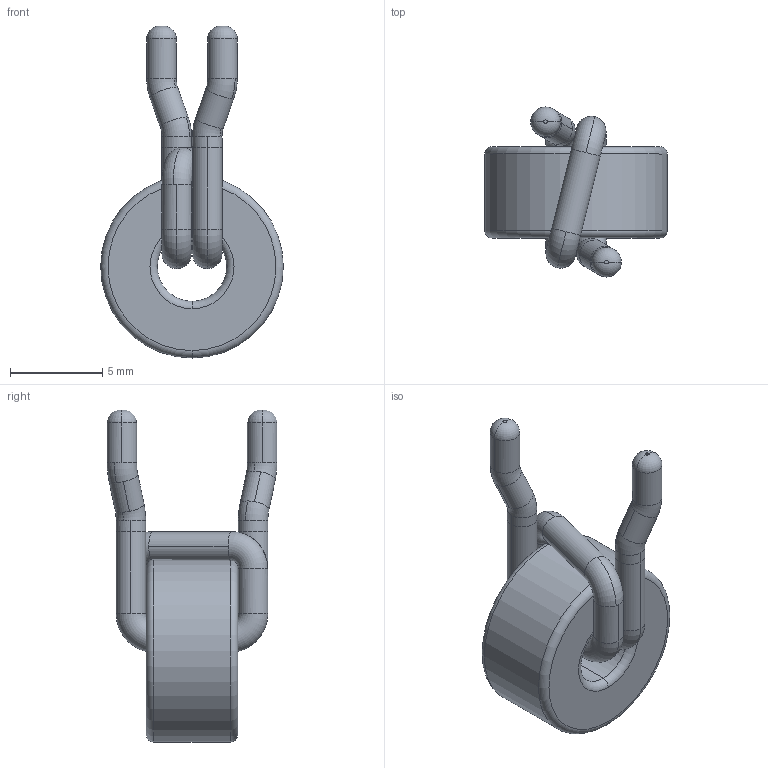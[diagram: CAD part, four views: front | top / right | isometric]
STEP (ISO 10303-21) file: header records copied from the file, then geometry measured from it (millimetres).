
FILE_DESCRIPTION (( 'STEP AP203' ), '1' );
FILE_NAME ('C-B5298-00.STEP', '2021-01-09T07:58:15', ( 'Windows User' ), ( '' ), 'SwSTEP 2.0', 'SolidWorks 2015', '' );
FILE_SCHEMA (( 'CONFIG_CONTROL_DESIGN' ));
Length unit declared in the file: inch
Products named in the file (3): C-B5298-00 - CORE; C-B5298-00 - COIL; C-B5298-00
Assembly tree (2 placements, depth 2):
  C-B5298-00
    C-B5298-00 - CORE
    C-B5298-00 - COIL
Bounding box: 9.89 x 9.2 x 17.97 mm (x, y, z)
Volume: 425.5 mm3; surface area: 597.1 mm2
Topology: 4 solids, 4 shells, 70 faces, 162 edges, 100 vertices
Faces by surface type: torus 32, cylinder 30, plane 8
Entity records: 2357 total; most frequent: DIRECTION 444, CARTESIAN_POINT 337, ORIENTED_EDGE 324, AXIS2_PLACEMENT_3D 207, EDGE_CURVE 162, CIRCLE 132, VERTEX_POINT 100, EDGE_LOOP 72
